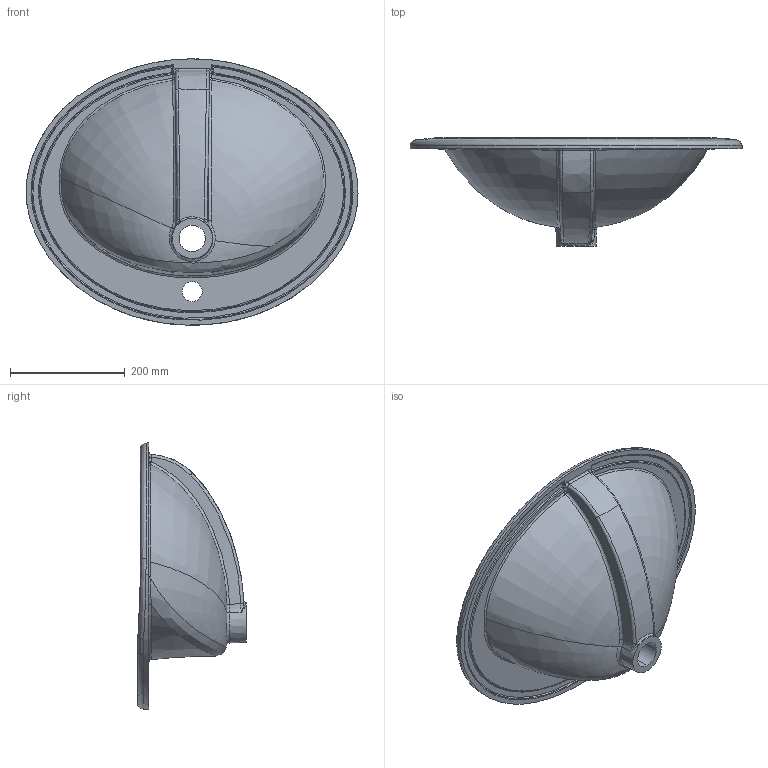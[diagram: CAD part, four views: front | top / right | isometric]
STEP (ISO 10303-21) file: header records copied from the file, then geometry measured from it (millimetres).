
FILE_DESCRIPTION (( 'STEP AP203' ), '1' );
FILE_NAME ('TP230.STEP', '2022-04-20T12:53:01', ( '' ), ( '' ), 'SwSTEP 2.0', 'SolidWorks 2021', '' );
FILE_SCHEMA (( 'CONFIG_CONTROL_DESIGN' ));
Length unit declared in the file: metre
Products named in the file (1): TP230
Bounding box: 579.05 x 190 x 464.46 mm (x, y, z)
Volume: 4006952 mm3; surface area: 621059.1 mm2
Topology: 2 solids, 3 shells, 149 faces, 373 edges, 221 vertices
Faces by surface type: bspline 110, plane 20, cylinder 15, cone 4
Entity records: 57269 total; most frequent: CARTESIAN_POINT 54502, ORIENTED_EDGE 726, EDGE_CURVE 363, DIRECTION 316, VERTEX_POINT 221, B_SPLINE_CURVE_WITH_KNOTS 210, EDGE_LOOP 156, ADVANCED_FACE 149
